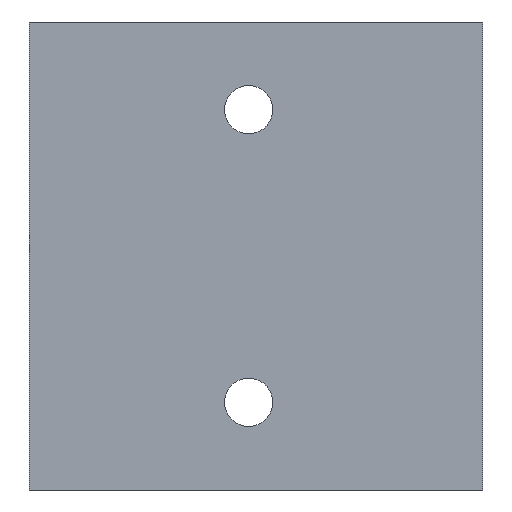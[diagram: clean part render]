
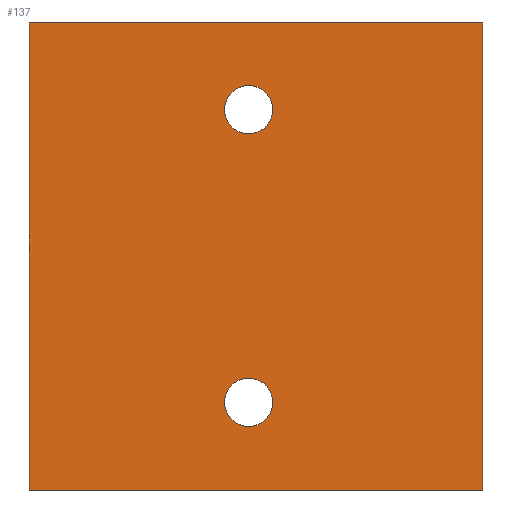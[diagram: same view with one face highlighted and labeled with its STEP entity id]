
A CAD part, front view. The second image highlights one B-rep face of the part: STEP entity #137.
In plain terms, the highlighted planar face has unit normal (0, -1, 0).
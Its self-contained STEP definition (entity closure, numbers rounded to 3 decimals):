
#21 = EDGE_CURVE('',#22,#24,#26,.T.);
#22 = VERTEX_POINT('',#23);
#23 = CARTESIAN_POINT('',(25.,-38.,-16.));
#24 = VERTEX_POINT('',#25);
#25 = CARTESIAN_POINT('',(25.,-38.,16.));
#26 = SURFACE_CURVE('',#27,(#31,#43),.PCURVE_S1.);
#27 = LINE('',#28,#29);
#28 = CARTESIAN_POINT('',(25.,-38.,-16.));
#29 = VECTOR('',#30,1.);
#30 = DIRECTION('',(0.,0.,1.));
#31 = PCURVE('',#32,#37);
#32 = PLANE('',#33);
#33 = AXIS2_PLACEMENT_3D('',#34,#35,#36);
#34 = CARTESIAN_POINT('',(25.,-38.,-16.));
#35 = DIRECTION('',(1.,0.,0.));
#36 = DIRECTION('',(0.,0.,1.));
#37 = DEFINITIONAL_REPRESENTATION('',(#38),#42);
#38 = LINE('',#39,#40);
#39 = CARTESIAN_POINT('',(0.,0.));
#40 = VECTOR('',#41,1.);
#41 = DIRECTION('',(1.,0.));
#42 = ( GEOMETRIC_REPRESENTATION_CONTEXT(2)
PARAMETRIC_REPRESENTATION_CONTEXT() REPRESENTATION_CONTEXT('2D SPACE',''
  ) );
#43 = PCURVE('',#44,#49);
#44 = PLANE('',#45);
#45 = AXIS2_PLACEMENT_3D('',#46,#47,#48);
#46 = CARTESIAN_POINT('',(25.,-38.,-16.));
#47 = DIRECTION('',(0.,1.,0.));
#48 = DIRECTION('',(0.,0.,1.));
#49 = DEFINITIONAL_REPRESENTATION('',(#50),#54);
#50 = LINE('',#51,#52);
#51 = CARTESIAN_POINT('',(0.,0.));
#52 = VECTOR('',#53,1.);
#53 = DIRECTION('',(1.,0.));
#54 = ( GEOMETRIC_REPRESENTATION_CONTEXT(2)
PARAMETRIC_REPRESENTATION_CONTEXT() REPRESENTATION_CONTEXT('2D SPACE',''
  ) );
#72 = PLANE('',#73);
#73 = AXIS2_PLACEMENT_3D('',#74,#75,#76);
#74 = CARTESIAN_POINT('',(25.,-38.,-16.));
#75 = DIRECTION('',(0.,0.,1.));
#76 = DIRECTION('',(1.,0.,0.));
#126 = PLANE('',#127);
#127 = AXIS2_PLACEMENT_3D('',#128,#129,#130);
#128 = CARTESIAN_POINT('',(25.,-38.,16.));
#129 = DIRECTION('',(0.,0.,1.));
#130 = DIRECTION('',(1.,0.,0.));
#137 = ADVANCED_FACE('',(#138,#213,#244),#44,.F.);
#138 = FACE_BOUND('',#139,.F.);
#139 = EDGE_LOOP('',(#140,#170,#191,#192));
#140 = ORIENTED_EDGE('',*,*,#141,.F.);
#141 = EDGE_CURVE('',#142,#144,#146,.T.);
#142 = VERTEX_POINT('',#143);
#143 = CARTESIAN_POINT('',(56.,-38.,-16.));
#144 = VERTEX_POINT('',#145);
#145 = CARTESIAN_POINT('',(56.,-38.,16.));
#146 = SURFACE_CURVE('',#147,(#151,#158),.PCURVE_S1.);
#147 = LINE('',#148,#149);
#148 = CARTESIAN_POINT('',(56.,-38.,-16.));
#149 = VECTOR('',#150,1.);
#150 = DIRECTION('',(0.,0.,1.));
#151 = PCURVE('',#44,#152);
#152 = DEFINITIONAL_REPRESENTATION('',(#153),#157);
#153 = LINE('',#154,#155);
#154 = CARTESIAN_POINT('',(0.,31.));
#155 = VECTOR('',#156,1.);
#156 = DIRECTION('',(1.,0.));
#157 = ( GEOMETRIC_REPRESENTATION_CONTEXT(2)
PARAMETRIC_REPRESENTATION_CONTEXT() REPRESENTATION_CONTEXT('2D SPACE',''
  ) );
#158 = PCURVE('',#159,#164);
#159 = PLANE('',#160);
#160 = AXIS2_PLACEMENT_3D('',#161,#162,#163);
#161 = CARTESIAN_POINT('',(56.,-38.,-16.));
#162 = DIRECTION('',(1.,0.,0.));
#163 = DIRECTION('',(0.,0.,1.));
#164 = DEFINITIONAL_REPRESENTATION('',(#165),#169);
#165 = LINE('',#166,#167);
#166 = CARTESIAN_POINT('',(0.,0.));
#167 = VECTOR('',#168,1.);
#168 = DIRECTION('',(1.,0.));
#169 = ( GEOMETRIC_REPRESENTATION_CONTEXT(2)
PARAMETRIC_REPRESENTATION_CONTEXT() REPRESENTATION_CONTEXT('2D SPACE',''
  ) );
#170 = ORIENTED_EDGE('',*,*,#171,.F.);
#171 = EDGE_CURVE('',#22,#142,#172,.T.);
#172 = SURFACE_CURVE('',#173,(#177,#184),.PCURVE_S1.);
#173 = LINE('',#174,#175);
#174 = CARTESIAN_POINT('',(25.,-38.,-16.));
#175 = VECTOR('',#176,1.);
#176 = DIRECTION('',(1.,0.,0.));
#177 = PCURVE('',#44,#178);
#178 = DEFINITIONAL_REPRESENTATION('',(#179),#183);
#179 = LINE('',#180,#181);
#180 = CARTESIAN_POINT('',(0.,0.));
#181 = VECTOR('',#182,1.);
#182 = DIRECTION('',(0.,1.));
#183 = ( GEOMETRIC_REPRESENTATION_CONTEXT(2)
PARAMETRIC_REPRESENTATION_CONTEXT() REPRESENTATION_CONTEXT('2D SPACE',''
  ) );
#184 = PCURVE('',#72,#185);
#185 = DEFINITIONAL_REPRESENTATION('',(#186),#190);
#186 = LINE('',#187,#188);
#187 = CARTESIAN_POINT('',(0.,0.));
#188 = VECTOR('',#189,1.);
#189 = DIRECTION('',(1.,0.));
#190 = ( GEOMETRIC_REPRESENTATION_CONTEXT(2)
PARAMETRIC_REPRESENTATION_CONTEXT() REPRESENTATION_CONTEXT('2D SPACE',''
  ) );
#191 = ORIENTED_EDGE('',*,*,#21,.T.);
#192 = ORIENTED_EDGE('',*,*,#193,.T.);
#193 = EDGE_CURVE('',#24,#144,#194,.T.);
#194 = SURFACE_CURVE('',#195,(#199,#206),.PCURVE_S1.);
#195 = LINE('',#196,#197);
#196 = CARTESIAN_POINT('',(25.,-38.,16.));
#197 = VECTOR('',#198,1.);
#198 = DIRECTION('',(1.,0.,0.));
#199 = PCURVE('',#44,#200);
#200 = DEFINITIONAL_REPRESENTATION('',(#201),#205);
#201 = LINE('',#202,#203);
#202 = CARTESIAN_POINT('',(32.,0.));
#203 = VECTOR('',#204,1.);
#204 = DIRECTION('',(0.,1.));
#205 = ( GEOMETRIC_REPRESENTATION_CONTEXT(2)
PARAMETRIC_REPRESENTATION_CONTEXT() REPRESENTATION_CONTEXT('2D SPACE',''
  ) );
#206 = PCURVE('',#126,#207);
#207 = DEFINITIONAL_REPRESENTATION('',(#208),#212);
#208 = LINE('',#209,#210);
#209 = CARTESIAN_POINT('',(0.,0.));
#210 = VECTOR('',#211,1.);
#211 = DIRECTION('',(1.,0.));
#212 = ( GEOMETRIC_REPRESENTATION_CONTEXT(2)
PARAMETRIC_REPRESENTATION_CONTEXT() REPRESENTATION_CONTEXT('2D SPACE',''
  ) );
#213 = FACE_BOUND('',#214,.F.);
#214 = EDGE_LOOP('',(#215));
#215 = ORIENTED_EDGE('',*,*,#216,.F.);
#216 = EDGE_CURVE('',#217,#217,#219,.T.);
#217 = VERTEX_POINT('',#218);
#218 = CARTESIAN_POINT('',(40.,-38.,-8.35));
#219 = SURFACE_CURVE('',#220,(#225,#232),.PCURVE_S1.);
#220 = CIRCLE('',#221,1.65);
#221 = AXIS2_PLACEMENT_3D('',#222,#223,#224);
#222 = CARTESIAN_POINT('',(40.,-38.,-10.));
#223 = DIRECTION('',(0.,1.,0.));
#224 = DIRECTION('',(0.,-0.,1.));
#225 = PCURVE('',#44,#226);
#226 = DEFINITIONAL_REPRESENTATION('',(#227),#231);
#227 = CIRCLE('',#228,1.65);
#228 = AXIS2_PLACEMENT_2D('',#229,#230);
#229 = CARTESIAN_POINT('',(6.,15.));
#230 = DIRECTION('',(1.,0.));
#231 = ( GEOMETRIC_REPRESENTATION_CONTEXT(2)
PARAMETRIC_REPRESENTATION_CONTEXT() REPRESENTATION_CONTEXT('2D SPACE',''
  ) );
#232 = PCURVE('',#233,#238);
#233 = CYLINDRICAL_SURFACE('',#234,1.65);
#234 = AXIS2_PLACEMENT_3D('',#235,#236,#237);
#235 = CARTESIAN_POINT('',(40.,-39.,-10.));
#236 = DIRECTION('',(0.,1.,0.));
#237 = DIRECTION('',(0.,-0.,1.));
#238 = DEFINITIONAL_REPRESENTATION('',(#239),#243);
#239 = LINE('',#240,#241);
#240 = CARTESIAN_POINT('',(0.,1.));
#241 = VECTOR('',#242,1.);
#242 = DIRECTION('',(1.,0.));
#243 = ( GEOMETRIC_REPRESENTATION_CONTEXT(2)
PARAMETRIC_REPRESENTATION_CONTEXT() REPRESENTATION_CONTEXT('2D SPACE',''
  ) );
#244 = FACE_BOUND('',#245,.F.);
#245 = EDGE_LOOP('',(#246));
#246 = ORIENTED_EDGE('',*,*,#247,.F.);
#247 = EDGE_CURVE('',#248,#248,#250,.T.);
#248 = VERTEX_POINT('',#249);
#249 = CARTESIAN_POINT('',(40.,-38.,11.65));
#250 = SURFACE_CURVE('',#251,(#256,#263),.PCURVE_S1.);
#251 = CIRCLE('',#252,1.65);
#252 = AXIS2_PLACEMENT_3D('',#253,#254,#255);
#253 = CARTESIAN_POINT('',(40.,-38.,10.));
#254 = DIRECTION('',(0.,1.,0.));
#255 = DIRECTION('',(0.,-0.,1.));
#256 = PCURVE('',#44,#257);
#257 = DEFINITIONAL_REPRESENTATION('',(#258),#262);
#258 = CIRCLE('',#259,1.65);
#259 = AXIS2_PLACEMENT_2D('',#260,#261);
#260 = CARTESIAN_POINT('',(26.,15.));
#261 = DIRECTION('',(1.,0.));
#262 = ( GEOMETRIC_REPRESENTATION_CONTEXT(2)
PARAMETRIC_REPRESENTATION_CONTEXT() REPRESENTATION_CONTEXT('2D SPACE',''
  ) );
#263 = PCURVE('',#264,#269);
#264 = CYLINDRICAL_SURFACE('',#265,1.65);
#265 = AXIS2_PLACEMENT_3D('',#266,#267,#268);
#266 = CARTESIAN_POINT('',(40.,-39.,10.));
#267 = DIRECTION('',(0.,1.,0.));
#268 = DIRECTION('',(0.,-0.,1.));
#269 = DEFINITIONAL_REPRESENTATION('',(#270),#274);
#270 = LINE('',#271,#272);
#271 = CARTESIAN_POINT('',(0.,1.));
#272 = VECTOR('',#273,1.);
#273 = DIRECTION('',(1.,0.));
#274 = ( GEOMETRIC_REPRESENTATION_CONTEXT(2)
PARAMETRIC_REPRESENTATION_CONTEXT() REPRESENTATION_CONTEXT('2D SPACE',''
  ) );
